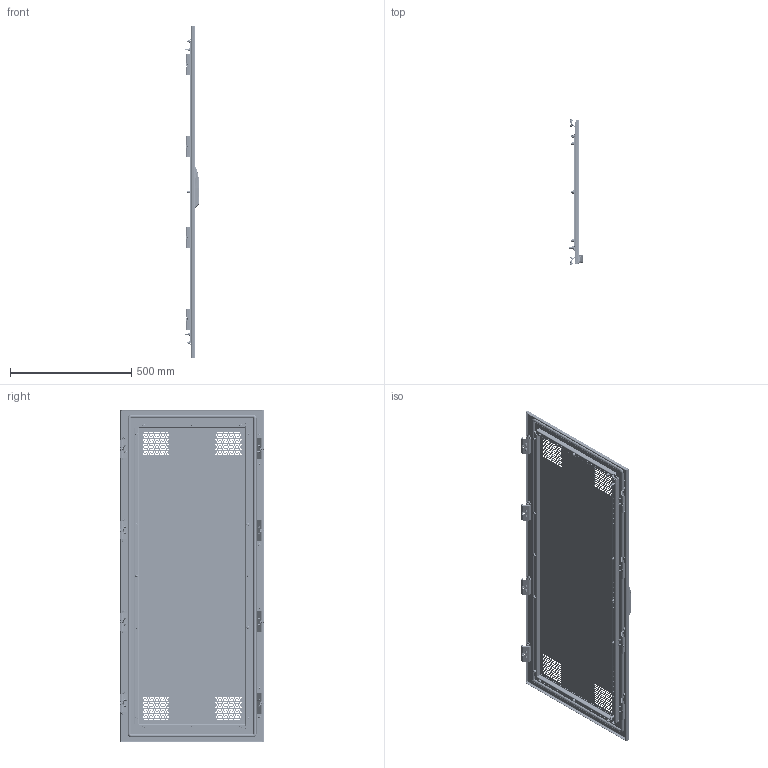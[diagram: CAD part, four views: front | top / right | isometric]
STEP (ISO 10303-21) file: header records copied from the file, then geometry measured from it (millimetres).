
FILE_DESCRIPTION(('STEP AP203'), '1');
FILE_NAME('3410.Ï Äâåðü ïåðôîðèðîâàííàÿ ÑÁ', '', ('UNSPECIFIED'), ('UNSPECIFIED'), 'C3D Converter', 'C3D Toolkit', '');
FILE_SCHEMA(('CONFIG_CONTROL_DESIGN'));
Length unit declared in the file: millimetre
Products named in the file (29): 3410.П.140.60 СБ; 3420.П; 3423; 3422.01; 3412; 3411; 868-000A_ASM; 868-000B; 868-000C; TS003-3; TS003-2; ёЗ豹X2\0435\X0\; 3009.05; 3009.05.01; 3622.01; 3009.08; 3009.08.01
Assembly tree (114 placements, depth 4):
  3410.П.140.60 СБ
    3420.П
      3423
      3422.01  x4
      (unnamed)  x14
      (unnamed)  x6
      (unnamed)  x2
    3412  x2
    3411  x2
    (unnamed)  x4
    (unnamed)  x16
    (unnamed)  x22
    (unnamed)  x6
    (unnamed)
      868-000A_ASM
        868-000B
        868-000C
        TS003-3
        TS003-2
        ёЗ豹X2\0435\X0\
      TS003-2
    (unnamed)  x2
    3009.05  x4
      3009.05.01
      (unnamed)
      (unnamed)
    3622.01  x4
    (unnamed)  x4
    3009.08  x4
      3009.08.01
      (unnamed)
      (unnamed)
Bounding box: 59.5 x 597.03 x 1371 mm (x, y, z)
Volume: 1952564.6 mm3; surface area: 2586337.3 mm2
Topology: 129 solids, 129 shells, 4781 faces, 12254 edges, 7906 vertices
Faces by surface type: plane 2580, cylinder 1420, cone 498, bspline 191, torus 81, sphere 11
Full cylindrical faces by diameter (mm): 0.5 x22, 4.134 x8, 4.3 x2, 4.5 x116, 4.917 x22, 5 x24, 5.2 x2, 5.8 x8, 6 x34, 6.1 x4, 6.6 x22, 6.75 x22, 7 x6, 7.3 x22, 7.5 x22, 8 x434, 8.3 x16, 8.5 x2, 9.2 x18, 10 x23, 10.5 x4, 12 x26, 13 x1, 15 x1, 20.7 x2, 21 x1
Entity records: 84090 total; most frequent: CARTESIAN_POINT 33294, DIRECTION 8908, ORIENTED_EDGE 8534, EDGE_CURVE 4267, AXIS2_PLACEMENT_3D 3524, EDGE_LOOP 3509, VERTEX_POINT 3090, FACE_BOUND 2345
